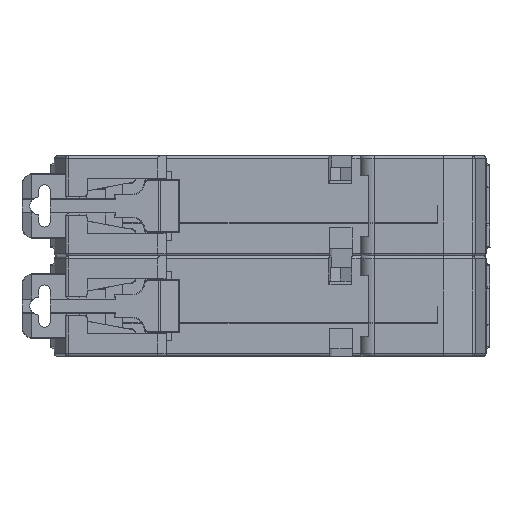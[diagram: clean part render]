
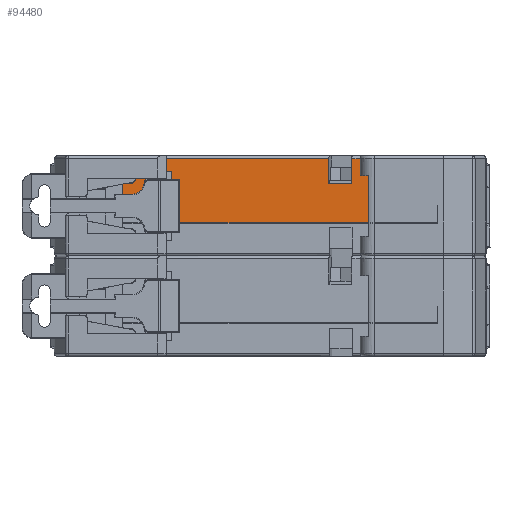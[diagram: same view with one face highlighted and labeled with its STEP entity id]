
A CAD part, front view. The second image highlights one B-rep face of the part: STEP entity #94480.
In plain terms, the highlighted planar face has unit normal (0, -1, 0).
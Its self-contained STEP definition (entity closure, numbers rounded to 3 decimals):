
#2541=DIRECTION('',(-1.,0.,0.));
#2542=VECTOR('',#2541,35.);
#2543=CARTESIAN_POINT('',(17.5,-46.,23.7));
#2544=LINE('',#2543,#2542);
#2672=DIRECTION('',(-1.,0.,0.));
#2673=VECTOR('',#2672,3.533);
#2674=CARTESIAN_POINT('',(-17.5,-46.,32.9));
#2675=LINE('',#2674,#2673);
#2676=CARTESIAN_POINT('',(-21.033,-46.,31.9));
#2677=DIRECTION('',(0.,1.,0.));
#2678=DIRECTION('',(-0.966,0.,0.259));
#2679=AXIS2_PLACEMENT_3D('',#2676,#2677,#2678);
#2681=DIRECTION('',(-0.259,0.,-0.966));
#2682=VECTOR('',#2681,1.943);
#2683=CARTESIAN_POINT('',(-21.999,-46.,
32.159));
#2684=LINE('',#2683,#2682);
#2685=CARTESIAN_POINT('',(-24.433,-46.,30.8));
#2686=DIRECTION('',(0.,-1.,0.));
#2687=DIRECTION('',(0.,0.,-1.));
#2688=AXIS2_PLACEMENT_3D('',#2685,#2686,#2687);
#2690=DIRECTION('',(-1.,0.,0.));
#2691=VECTOR('',#2690,1.787);
#2692=CARTESIAN_POINT('',(-24.433,-46.,28.8));
#2693=LINE('',#2692,#2691);
#2694=DIRECTION('',(0.,0.,1.));
#2695=VECTOR('',#2694,1.764);
#2696=CARTESIAN_POINT('',(-26.22,-46.,28.8));
#2697=LINE('',#2696,#2695);
#2698=DIRECTION('',(0.983,0.,0.186));
#2699=VECTOR('',#2698,0.733);
#2700=CARTESIAN_POINT('',(-26.22,-46.,30.564));
#2701=LINE('',#2700,#2699);
#2702=DIRECTION('',(1.,0.,0.));
#2703=VECTOR('',#2702,0.668);
#2704=CARTESIAN_POINT('',(-25.5,-46.,30.7));
#2705=LINE('',#2704,#2703);
#2706=CARTESIAN_POINT('',(-24.832,-46.,31.7));
#2707=DIRECTION('',(0.,1.,0.));
#2708=DIRECTION('',(0.966,0.,-0.259));
#2709=AXIS2_PLACEMENT_3D('',#2706,#2707,#2708);
#2711=DIRECTION('',(0.259,0.,0.966));
#2712=VECTOR('',#2711,2.903);
#2713=CARTESIAN_POINT('',(-23.866,-46.,
31.441));
#2714=LINE('',#2713,#2712);
#2715=DIRECTION('',(-0.819,0.,-0.574));
#2716=VECTOR('',#2715,0.421);
#2717=CARTESIAN_POINT('',(-22.77,-46.,34.487));
#2718=LINE('',#2717,#2716);
#2719=DIRECTION('',(-0.921,0.,0.391));
#2720=VECTOR('',#2719,0.782);
#2721=CARTESIAN_POINT('',(-22.05,-46.,34.181));
#2722=LINE('',#2721,#2720);
#2723=DIRECTION('',(0.,0.,1.));
#2724=VECTOR('',#2723,1.081);
#2725=CARTESIAN_POINT('',(-22.05,-46.,33.1));
#2726=LINE('',#2725,#2724);
#2727=DIRECTION('',(-1.,0.,0.));
#2728=VECTOR('',#2727,2.4);
#2729=CARTESIAN_POINT('',(-19.65,-46.,33.1));
#2730=LINE('',#2729,#2728);
#2731=DIRECTION('',(1.,0.,0.));
#2732=VECTOR('',#2731,28.932);
#2733=CARTESIAN_POINT('',(-18.5,-46.,35.1));
#2734=LINE('',#2733,#2732);
#2735=DIRECTION('',(0.,0.,-1.));
#2736=VECTOR('',#2735,4.5);
#2737=CARTESIAN_POINT('',(10.432,-46.,35.1));
#2738=LINE('',#2737,#2736);
#2739=DIRECTION('',(1.,0.,0.));
#2740=VECTOR('',#2739,4.062);
#2741=CARTESIAN_POINT('',(10.432,-46.,30.6));
#2742=LINE('',#2741,#2740);
#2743=DIRECTION('',(0.,0.,-1.));
#2744=VECTOR('',#2743,4.5);
#2745=CARTESIAN_POINT('',(14.494,-46.,35.1));
#2746=LINE('',#2745,#2744);
#2747=DIRECTION('',(1.,0.,0.));
#2748=VECTOR('',#2747,3.006);
#2749=CARTESIAN_POINT('',(14.494,-46.,35.1));
#2750=LINE('',#2749,#2748);
#2751=DIRECTION('',(0.,0.,-1.));
#2752=VECTOR('',#2751,11.4);
#2753=CARTESIAN_POINT('',(17.5,-46.,35.1));
#2754=LINE('',#2753,#2752);
#2755=DIRECTION('',(0.,0.,1.));
#2756=VECTOR('',#2755,9.2);
#2757=CARTESIAN_POINT('',(-17.5,-46.,23.7));
#2758=LINE('',#2757,#2756);
#34734=CARTESIAN_POINT('',(10.432,-46.,
35.1));
#34900=CARTESIAN_POINT('',(14.494,-46.,
35.1));
#35031=DIRECTION('',(0.,0.,-1.));
#35032=VECTOR('',#35031,0.85);
#35033=CARTESIAN_POINT('',(-18.5,-46.,35.1));
#35034=LINE('',#35033,#35032);
#35035=DIRECTION('',(-0.707,0.,
-0.707));
#35036=VECTOR('',#35035,1.626);
#35037=CARTESIAN_POINT('',(-18.5,-46.,34.25));
#35038=LINE('',#35037,#35036);
#83514=CARTESIAN_POINT('',(17.5,-46.,23.7));
#83515=VERTEX_POINT('',#83514);
#83796=CARTESIAN_POINT('',(10.432,-46.,
30.6));
#83797=CARTESIAN_POINT('',(14.494,-46.,
30.6));
#83798=VERTEX_POINT('',#83796);
#83799=VERTEX_POINT('',#83797);
#84189=VERTEX_POINT('',#34734);
#84190=CARTESIAN_POINT('',(-18.5,-46.,35.1));
#84191=VERTEX_POINT('',#84190);
#84206=VERTEX_POINT('',#34900);
#84210=CARTESIAN_POINT('',(17.5,-46.,35.1));
#84211=VERTEX_POINT('',#84210);
#84301=CARTESIAN_POINT('',(-19.65,-46.,33.1));
#84303=VERTEX_POINT('',#84301);
#84306=CARTESIAN_POINT('',(-18.5,-46.,34.25));
#84307=VERTEX_POINT('',#84306);
#84308=CARTESIAN_POINT('',(-22.05,-46.,33.1));
#84309=VERTEX_POINT('',#84308);
#84528=CARTESIAN_POINT('',(-22.05,-46.,34.181));
#84529=VERTEX_POINT('',#84528);
#84530=CARTESIAN_POINT('',(-22.77,-46.,34.487));
#84531=VERTEX_POINT('',#84530);
#92500=CARTESIAN_POINT('',(-17.5,-46.,32.9));
#92501=CARTESIAN_POINT('',(-21.033,-46.,32.9));
#92502=VERTEX_POINT('',#92500);
#92503=VERTEX_POINT('',#92501);
#92504=CARTESIAN_POINT('',(-21.999,-46.,
32.159));
#92505=CARTESIAN_POINT('',(-22.501,-46.,
30.282));
#92506=VERTEX_POINT('',#92504);
#92507=VERTEX_POINT('',#92505);
#92508=CARTESIAN_POINT('',(-24.433,-46.,28.8));
#92509=CARTESIAN_POINT('',(-26.22,-46.,28.8));
#92510=VERTEX_POINT('',#92508);
#92511=VERTEX_POINT('',#92509);
#92516=CARTESIAN_POINT('',(-26.22,-46.,30.564));
#92517=CARTESIAN_POINT('',(-25.5,-46.,30.7));
#92518=VERTEX_POINT('',#92516);
#92519=VERTEX_POINT('',#92517);
#92520=CARTESIAN_POINT('',(-24.832,-46.,30.7));
#92521=VERTEX_POINT('',#92520);
#92522=CARTESIAN_POINT('',(-23.866,-46.,
31.441));
#92523=CARTESIAN_POINT('',(-23.115,-46.,
34.245));
#92524=VERTEX_POINT('',#92522);
#92525=VERTEX_POINT('',#92523);
#92534=CARTESIAN_POINT('',(-17.5,-46.,23.7));
#92535=VERTEX_POINT('',#92534);
#94428=CARTESIAN_POINT('',(17.5,-46.,35.6));
#94429=DIRECTION('',(0.,-1.,0.));
#94430=DIRECTION('',(-1.,0.,0.));
#94431=AXIS2_PLACEMENT_3D('',#94428,#94429,#94430);
#94432=PLANE('',#94431);
#94434=ORIENTED_EDGE('',*,*,#94433,.T.);
#94436=ORIENTED_EDGE('',*,*,#94435,.F.);
#94438=ORIENTED_EDGE('',*,*,#94437,.T.);
#94440=ORIENTED_EDGE('',*,*,#94439,.F.);
#94441=ORIENTED_EDGE('',*,*,#94416,.T.);
#94442=ORIENTED_EDGE('',*,*,#94176,.T.);
#94444=ORIENTED_EDGE('',*,*,#94443,.T.);
#94446=ORIENTED_EDGE('',*,*,#94445,.T.);
#94448=ORIENTED_EDGE('',*,*,#94447,.F.);
#94450=ORIENTED_EDGE('',*,*,#94449,.T.);
#94452=ORIENTED_EDGE('',*,*,#94451,.F.);
#94454=ORIENTED_EDGE('',*,*,#94453,.F.);
#94456=ORIENTED_EDGE('',*,*,#94455,.F.);
#94458=ORIENTED_EDGE('',*,*,#94457,.F.);
#94460=ORIENTED_EDGE('',*,*,#94459,.F.);
#94462=ORIENTED_EDGE('',*,*,#94461,.F.);
#94464=ORIENTED_EDGE('',*,*,#94463,.T.);
#94466=ORIENTED_EDGE('',*,*,#94465,.T.);
#94468=ORIENTED_EDGE('',*,*,#94467,.T.);
#94470=ORIENTED_EDGE('',*,*,#94469,.F.);
#94472=ORIENTED_EDGE('',*,*,#94471,.T.);
#94474=ORIENTED_EDGE('',*,*,#94473,.T.);
#94475=ORIENTED_EDGE('',*,*,#94297,.T.);
#94477=ORIENTED_EDGE('',*,*,#94476,.T.);
#94478=EDGE_LOOP('',(#94434,#94436,#94438,#94440,#94441,#94442,#94444,#94446,
#94448,#94450,#94452,#94454,#94456,#94458,#94460,#94462,#94464,#94466,#94468,
#94470,#94472,#94474,#94475,#94477));
#94479=FACE_OUTER_BOUND('',#94478,.F.);
#94480=ADVANCED_FACE('',(#94479),#94432,.T.);
#2680=CIRCLE('',#2679,1.);
#2689=CIRCLE('',#2688,2.);
#2710=CIRCLE('',#2709,1.);
#94176=EDGE_CURVE('',#92511,#92518,#2697,.T.);
#94297=EDGE_CURVE('',#83515,#92535,#2544,.T.);
#94416=EDGE_CURVE('',#92510,#92511,#2693,.T.);
#94433=EDGE_CURVE('',#92502,#92503,#2675,.T.);
#94435=EDGE_CURVE('',#92506,#92503,#2680,.T.);
#94437=EDGE_CURVE('',#92506,#92507,#2684,.T.);
#94439=EDGE_CURVE('',#92510,#92507,#2689,.T.);
#94443=EDGE_CURVE('',#92518,#92519,#2701,.T.);
#94445=EDGE_CURVE('',#92519,#92521,#2705,.T.);
#94447=EDGE_CURVE('',#92524,#92521,#2710,.T.);
#94449=EDGE_CURVE('',#92524,#92525,#2714,.T.);
#94451=EDGE_CURVE('',#84531,#92525,#2718,.T.);
#94453=EDGE_CURVE('',#84529,#84531,#2722,.T.);
#94455=EDGE_CURVE('',#84309,#84529,#2726,.T.);
#94457=EDGE_CURVE('',#84303,#84309,#2730,.T.);
#94459=EDGE_CURVE('',#84307,#84303,#35038,.T.);
#94461=EDGE_CURVE('',#84191,#84307,#35034,.T.);
#94463=EDGE_CURVE('',#84191,#84189,#2734,.T.);
#94465=EDGE_CURVE('',#84189,#83798,#2738,.T.);
#94467=EDGE_CURVE('',#83798,#83799,#2742,.T.);
#94469=EDGE_CURVE('',#84206,#83799,#2746,.T.);
#94471=EDGE_CURVE('',#84206,#84211,#2750,.T.);
#94473=EDGE_CURVE('',#84211,#83515,#2754,.T.);
#94476=EDGE_CURVE('',#92535,#92502,#2758,.T.);
